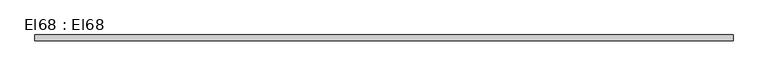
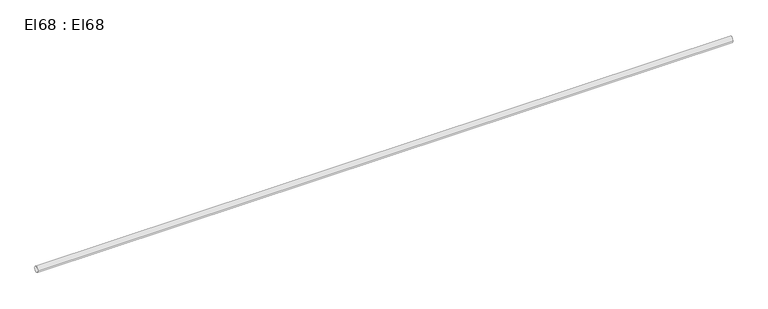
"""IFC4 building model written with IfcOpenShell, lengths in millimetres: cable carrier segment geometry, El68 : El68."""

import ifcopenshell
import ifcopenshell.guid

model = None  # the IFC model being written
_history = None  # IfcOwnerHistory: only IFC2X3 demands one
_inside = {}  # id of a spatial element -> (the spatial element, [elements in it])
_under = {}  # id of a project, library or spatial element -> (it, [spatial elements below it])
_declared = {}  # id of a project -> (the project, [libraries it declares])
_typed = {}  # id of a type object -> (the type object, [elements of that type])
_made_of = {}  # id of a material, layer set ... -> (it, [elements and type objects made of it])


def new_model(schema):
    """Start an empty IFC model of exactly this schema.

    Asked for "IFC4X3", IfcOpenShell would pick the latest addendum, in which some entities
    have other attributes; the version numbers below select the first issue.
    IFC2X3 requires an IfcOwnerHistory on every rooted entity: one is made here for all.
    """
    global model, _history
    if schema == "IFC4X3":
        model = ifcopenshell.file(schema_version=(4, 3, 0, 0))
    else:
        model = ifcopenshell.file(schema=schema)
    _inside.clear()
    _under.clear()
    _declared.clear()
    _typed.clear()
    _made_of.clear()
    _history = None
    if model.schema == "IFC2X3":
        org = make("IfcOrganization", Name="unknown")
        user = make(
            "IfcPersonAndOrganization",
            ThePerson=make("IfcPerson", FamilyName="unknown"),
            TheOrganization=org,
        )
        app = make(
            "IfcApplication",
            ApplicationDeveloper=org,
            Version="unknown",
            ApplicationFullName="unknown",
            ApplicationIdentifier="unknown",
        )
        _history = make(
            "IfcOwnerHistory",
            OwningUser=user,
            OwningApplication=app,
            ChangeAction="ADDED",
            CreationDate=0,
        )
    return model


def make(cls, **values):
    """One entity of the class cls with the attributes given. An attribute that is None is left unset."""
    return model.create_entity(
        cls, **{name: value for name, value in values.items() if value is not None}
    )


def rooted(cls, **values):
    """An entity with a GlobalId (a new one), such as an element, a storey or a relation."""
    return make(cls, GlobalId=ifcopenshell.guid.new(), OwnerHistory=_history, **values)


def si_unit(unit_type, name, prefix=None):
    """IfcSIUnit, for example si_unit("LENGTHUNIT", "METRE", prefix="MILLI")."""
    return make("IfcSIUnit", UnitType=unit_type, Prefix=prefix, Name=name)


def assignment(units):
    """IfcUnitAssignment: the units of a project."""
    return None if units is None else make("IfcUnitAssignment", Units=units)


def point(xyz):
    """IfcCartesianPoint."""
    return None if xyz is None else make("IfcCartesianPoint", Coordinates=xyz)


def direction(xyz):
    """IfcDirection."""
    return None if xyz is None else make("IfcDirection", DirectionRatios=xyz)


def frame(location, z_axis=None, x_axis=None):
    """IfcAxis2Placement3D, a coordinate frame: its origin and axes. An axis left out is left unset."""
    return make(
        "IfcAxis2Placement3D",
        Location=point(location),
        Axis=direction(z_axis),
        RefDirection=direction(x_axis),
    )


def frame_2d(location, x_axis=None):
    """IfcAxis2Placement2D, a coordinate frame in the plane: its origin and x axis."""
    return make(
        "IfcAxis2Placement2D", Location=point(location), RefDirection=direction(x_axis)
    )


def origin():
    """The frame at (0, 0, 0) with its axes left unset."""
    return frame((0.0, 0.0, 0.0))


def place(relative_to, where):
    """IfcLocalPlacement: puts the frame where relative to a parent placement (None: the world)."""
    return make(
        "IfcLocalPlacement", PlacementRelTo=relative_to, RelativePlacement=where
    )


def context(
    kind, dimensions, precision=None, world=None, true_north=None, identifier=None
):
    """IfcGeometricRepresentationContext, for example the 3D "Model" context."""
    return make(
        "IfcGeometricRepresentationContext",
        ContextIdentifier=identifier,
        ContextType=kind,
        CoordinateSpaceDimension=dimensions,
        Precision=precision,
        WorldCoordinateSystem=world,
        TrueNorth=true_north,
    )


def project(units=None, contexts=None):
    """IfcProject with its units and contexts."""
    return rooted(
        "IfcProject",
        Name="project",
        RepresentationContexts=contexts,
        UnitsInContext=assignment(units),
    )


def spatial(cls, under=None, at=None, **own):
    """A site, building, storey or space (cls), placed at a placement, below another one or the project."""
    s = rooted(cls, ObjectPlacement=at, **own)
    if under is not None:
        _under.setdefault(under.id(), (under, []))[1].append(s)
    return s


def circle_curve(where, radius):
    """IfcCircle in the frame where."""
    return make("IfcCircle", Position=where, Radius=radius)


def trimmed(basis, trim1, trim2, sense, master):
    """IfcTrimmedCurve: the piece of a basis curve between two trims."""
    return make(
        "IfcTrimmedCurve",
        BasisCurve=basis,
        Trim1=trim1,
        Trim2=trim2,
        SenseAgreement=sense,
        MasterRepresentation=master,
    )


def segment(curve, same_sense, transition):
    """IfcCompositeCurveSegment."""
    return make(
        "IfcCompositeCurveSegment",
        Transition=transition,
        SameSense=same_sense,
        ParentCurve=curve,
    )


def composite_curve(segments, self_intersect=None):
    """IfcCompositeCurve: segments joined end to end."""
    return make("IfcCompositeCurve", Segments=segments, SelfIntersect=self_intersect)


def outline(outer, holes=None, kind="AREA"):
    """IfcArbitraryClosedProfileDef: a profile drawn as a closed curve; with holes, ...WithVoids."""
    if holes is None:
        return make("IfcArbitraryClosedProfileDef", ProfileType=kind, OuterCurve=outer)
    return make(
        "IfcArbitraryProfileDefWithVoids",
        ProfileType=kind,
        OuterCurve=outer,
        InnerCurves=holes,
    )


def extrude(swept, where, along, depth):
    """IfcExtrudedAreaSolid: the profile swept, set in the frame where, extruded along a direction by depth."""
    return make(
        "IfcExtrudedAreaSolid",
        SweptArea=swept,
        Position=where,
        ExtrudedDirection=direction(along),
        Depth=depth,
    )


def shape(context_of_items, identifier, shape_type, items):
    """IfcShapeRepresentation: the items that make up one representation, for example the "Body"."""
    return make(
        "IfcShapeRepresentation",
        ContextOfItems=context_of_items,
        RepresentationIdentifier=identifier,
        RepresentationType=shape_type,
        Items=items,
    )


def source(mapping_origin, context_of_items, identifier, shape_type, items):
    """IfcRepresentationMap: a shape defined once, which mapped items show again and again."""
    return make(
        "IfcRepresentationMap",
        MappingOrigin=mapping_origin,
        MappedRepresentation=shape(context_of_items, identifier, shape_type, items),
    )


def transform(
    local_origin,
    x_axis=None,
    y_axis=None,
    z_axis=None,
    scale=None,
    scale2=None,
    scale3=None,
    uniform=True,
):
    """IfcCartesianTransformationOperator3D, or its non-uniform kind. x_axis, y_axis, z_axis: its Axis1, 2, 3."""
    if uniform:
        return make(
            "IfcCartesianTransformationOperator3D",
            Axis1=direction(x_axis),
            Axis2=direction(y_axis),
            LocalOrigin=point(local_origin),
            Scale=scale,
            Axis3=direction(z_axis),
        )
    return make(
        "IfcCartesianTransformationOperator3DnonUniform",
        Axis1=direction(x_axis),
        Axis2=direction(y_axis),
        LocalOrigin=point(local_origin),
        Scale=scale,
        Axis3=direction(z_axis),
        Scale2=scale2,
        Scale3=scale3,
    )


def mapped(mapping_source, mapping_target):
    """IfcMappedItem: shows the shape of a source again, moved by a transform."""
    return make(
        "IfcMappedItem", MappingSource=mapping_source, MappingTarget=mapping_target
    )


def made_of(thing, what):
    """Note that an element or type object is made of a material, layer set ...; save() writes the relation."""
    if what is not None:
        _made_of.setdefault(what.id(), (what, []))[1].append(thing)
    return thing


def element(
    cls,
    number,
    at=None,
    inside=None,
    cuts=None,
    type_object=None,
    material=None,
    context=None,
    identifier="Body",
    shape_type=None,
    held_by="IfcProductDefinitionShape",
    body=None,
    shapes=None,
    **own,
):
    """One element of the class cls, such as IfcWall. Its Tag is "e" and its number.

    at: its placement. inside: the storey or other place that contains it. cuts: it is an
    opening in that element (IfcRelVoidsElement). A single representation is given by context,
    identifier, shape_type and body (its items); several are given by shapes. held_by: the class
    of the entity that holds the representations. save() writes the other relations.
    """
    e = rooted(cls, Tag="e%d" % number, ObjectPlacement=at, **own)
    if body is not None:
        shapes = [shape(context, identifier, shape_type, body)]
    if shapes is not None:
        e.Representation = make(held_by, Representations=shapes)
    if inside is not None:
        _inside.setdefault(inside.id(), (inside, []))[1].append(e)
    if cuts is not None:
        rooted(
            "IfcRelVoidsElement", RelatingBuildingElement=cuts, RelatedOpeningElement=e
        )
    if type_object is not None:
        _typed.setdefault(type_object.id(), (type_object, []))[1].append(e)
    return made_of(e, material)


def aggregate(whole, parts):
    """IfcRelAggregates: a whole, such as a stair, and the parts it consists of."""
    return rooted("IfcRelAggregates", RelatingObject=whole, RelatedObjects=parts)


def save(model, path):
    """Write the relations noted so far, then the file.

    IfcRelAggregates (storeys below a building ...), IfcRelContainedInSpatialStructure (elements
    in a storey), IfcRelDefinesByType, IfcRelAssociatesMaterial and IfcRelDeclares: one each for
    every whole, place, type object, material and project.
    """
    for whole, parts in _under.values():
        aggregate(whole, parts)
    for where, things in _inside.values():
        rooted(
            "IfcRelContainedInSpatialStructure",
            RelatedElements=things,
            RelatingStructure=where,
        )
    for kind, things in _typed.values():
        rooted("IfcRelDefinesByType", RelatedObjects=things, RelatingType=kind)
    for what, things in _made_of.values():
        rooted("IfcRelAssociatesMaterial", RelatedObjects=things, RelatingMaterial=what)
    for by, libraries in _declared.values():
        rooted("IfcRelDeclares", RelatingContext=by, RelatedDefinitions=libraries)
    model.write(path)


def el68_el68_030a6a05(model_context):
    return source(origin(), model_context, "Body", "SweptSolid", [
        extrude(outline(composite_curve([segment(trimmed(circle_curve(frame_2d((16514.6, 2950.0)), 9.5), [point((16505.1, 2950.0))], [point((16524.1, 2950.0))], False, "CARTESIAN"), True, "CONTINUOUS"), segment(trimmed(circle_curve(frame_2d((16514.6, 2950.0)), 9.5), [point((16524.1, 2950.0))], [point((16505.1, 2950.0))], False, "CARTESIAN"), True, "CONTINUOUS")], self_intersect=False)), frame((17521.1, 0.0, 0.0), z_axis=(1.0, 0.0, 0.0), x_axis=(0.0, 1.0, 0.0)), (0.0, 0.0, 1.0), 2240.0),
    ])


if __name__ == "__main__":
    model = new_model("IFC4")
    model_context = context("Model", 3, world=origin())
    ifc_project = project(units=[si_unit("LENGTHUNIT", "METRE", prefix="MILLI")], contexts=[model_context])
    site = spatial("IfcSite", under=ifc_project)
    building = spatial("IfcBuilding", under=site)
    placement = place(None, origin())
    el68_el68_shape = el68_el68_030a6a05(model_context)
    element("IfcCableCarrierSegment", 1, ObjectType="El68 : El68", at=placement, inside=building, context=model_context, shape_type="MappedRepresentation", body=[
        mapped(el68_el68_shape, transform((0.0, 0.0, 0.0), x_axis=(1.0, 0.0, 0.0), y_axis=(0.0, 1.0, 0.0), z_axis=(0.0, 0.0, 1.0))),
    ])
    save(model, "model.ifc")
